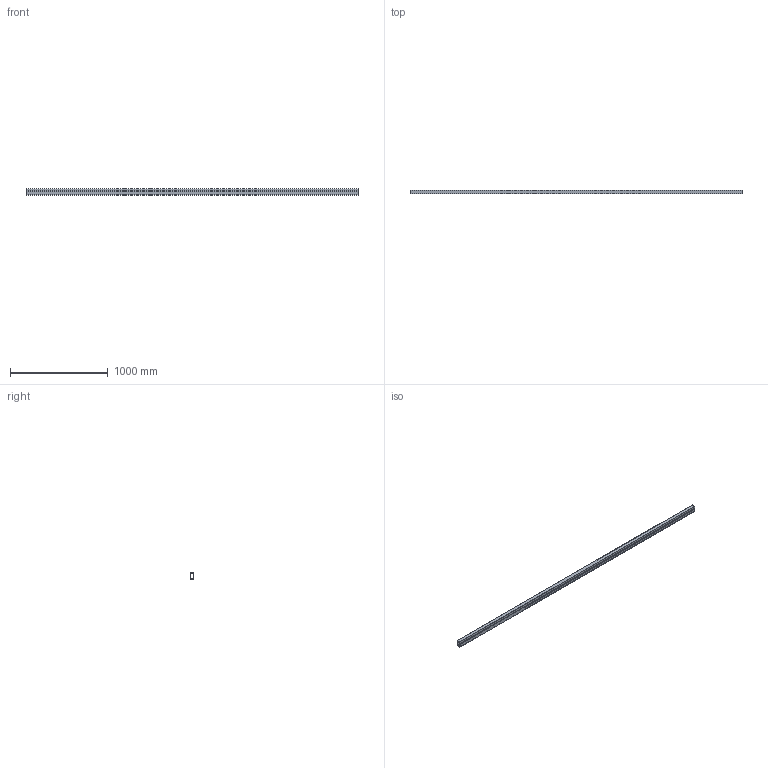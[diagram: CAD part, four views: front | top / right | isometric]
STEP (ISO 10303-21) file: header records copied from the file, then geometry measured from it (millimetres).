
FILE_DESCRIPTION(('STEP AP242'),'1');
FILE_NAME('OPO_65.084.03_volu_schn_3d.stp','2026-02-23T17:28:06',(' '),(' '),'Spatial InterOp 3D',' ',' ');
FILE_SCHEMA(('AP242_MANAGED_MODEL_BASED_3D_ENGINEERING_MIM_LF {1 0 10303 442 1 1 4}'));
Length unit declared in the file: millimetre
Products named in the file (1): 1
Bounding box: 3400 x 40 x 64.5 mm (x, y, z)
Volume: 2008550 mm3; surface area: 1379145.6 mm2
Topology: 1 solids, 1 shells, 90 faces, 2742 edges, 5075 vertices
Faces by surface type: plane 70, cylinder 20
Entity records: 34063 total; most frequent: DIRECTION 3268, CARTESIAN_POINT 3260, STYLED_ITEM 2582, PRESENTATION_STYLE_ASSIGNMENT 2582, COLOUR_RGB 2582, COMPOSITE_CURVE 2492, CURVE_STYLE 2492, COMPOSITE_CURVE_SEGMENT 2492
